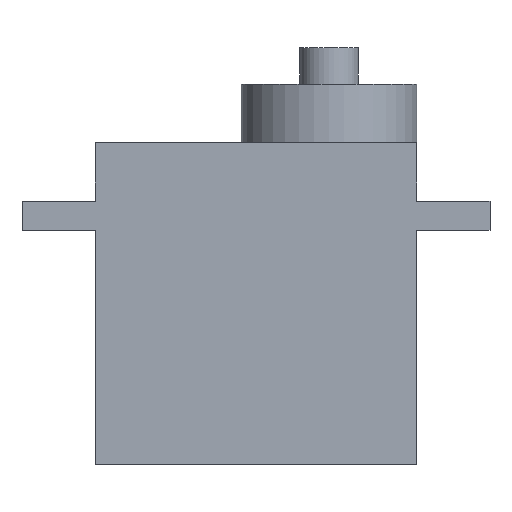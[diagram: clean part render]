
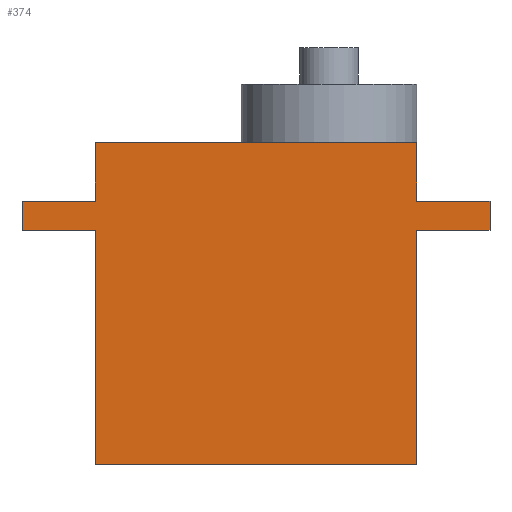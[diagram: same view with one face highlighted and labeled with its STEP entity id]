
A CAD part, front view. The second image highlights one B-rep face of the part: STEP entity #374.
In plain terms, the highlighted planar face has unit normal (0, -1, 0).
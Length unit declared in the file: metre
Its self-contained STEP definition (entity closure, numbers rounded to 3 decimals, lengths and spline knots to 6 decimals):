
#23=LINE('',#567,#62);
#25=LINE('',#572,#64);
#30=LINE('',#582,#69);
#34=LINE('',#590,#73);
#36=LINE('',#595,#75);
#39=LINE('',#601,#78);
#40=LINE('',#602,#79);
#41=LINE('',#604,#80);
#42=LINE('',#606,#81);
#43=LINE('',#607,#82);
#44=LINE('',#608,#83);
#45=LINE('',#610,#84);
#46=LINE('',#612,#85);
#62=VECTOR('',#461,1.);
#64=VECTOR('',#465,1.);
#69=VECTOR('',#472,1.);
#73=VECTOR('',#478,1.);
#75=VECTOR('',#482,1.);
#78=VECTOR('',#487,1.);
#79=VECTOR('',#488,1.);
#80=VECTOR('',#489,1.);
#81=VECTOR('',#490,1.);
#82=VECTOR('',#491,1.);
#83=VECTOR('',#492,1.);
#84=VECTOR('',#493,1.);
#85=VECTOR('',#494,1.);
#121=ORIENTED_EDGE('',*,*,#217,.T.);
#122=ORIENTED_EDGE('',*,*,#214,.F.);
#123=ORIENTED_EDGE('',*,*,#218,.F.);
#124=ORIENTED_EDGE('',*,*,#219,.F.);
#125=ORIENTED_EDGE('',*,*,#220,.T.);
#126=ORIENTED_EDGE('',*,*,#212,.F.);
#127=ORIENTED_EDGE('',*,*,#221,.F.);
#128=ORIENTED_EDGE('',*,*,#201,.F.);
#129=ORIENTED_EDGE('',*,*,#203,.T.);
#130=ORIENTED_EDGE('',*,*,#222,.F.);
#131=ORIENTED_EDGE('',*,*,#223,.F.);
#132=ORIENTED_EDGE('',*,*,#224,.T.);
#133=ORIENTED_EDGE('',*,*,#208,.T.);
#201=EDGE_CURVE('',#249,#247,#23,.T.);
#203=EDGE_CURVE('',#249,#250,#25,.T.);
#208=EDGE_CURVE('',#253,#255,#30,.T.);
#212=EDGE_CURVE('',#258,#257,#34,.T.);
#214=EDGE_CURVE('',#259,#261,#36,.T.);
#217=EDGE_CURVE('',#255,#261,#39,.T.);
#218=EDGE_CURVE('',#263,#259,#40,.T.);
#219=EDGE_CURVE('',#264,#263,#41,.T.);
#220=EDGE_CURVE('',#264,#257,#42,.T.);
#221=EDGE_CURVE('',#247,#258,#43,.T.);
#222=EDGE_CURVE('',#265,#250,#44,.T.);
#223=EDGE_CURVE('',#266,#265,#45,.T.);
#224=EDGE_CURVE('',#266,#253,#46,.T.);
#247=VERTEX_POINT('',#562);
#249=VERTEX_POINT('',#566);
#250=VERTEX_POINT('',#570);
#253=VERTEX_POINT('',#577);
#255=VERTEX_POINT('',#581);
#257=VERTEX_POINT('',#586);
#258=VERTEX_POINT('',#589);
#259=VERTEX_POINT('',#593);
#261=VERTEX_POINT('',#596);
#263=VERTEX_POINT('',#603);
#264=VERTEX_POINT('',#605);
#265=VERTEX_POINT('',#609);
#266=VERTEX_POINT('',#611);
#294=EDGE_LOOP('',(#121,#122,#123,#124,#125,#126,#127,#128,#129,#130,#131,
#132,#133));
#325=FACE_BOUND('',#294,.T.);
#356=PLANE('',#423);
#374=ADVANCED_FACE('',(#325),#356,.F.);
#423=AXIS2_PLACEMENT_3D('',#600,#485,#486);
#461=DIRECTION('',(1.,0.,0.));
#465=DIRECTION('',(0.,0.,-1.));
#472=DIRECTION('',(0.,0.,-1.));
#478=DIRECTION('',(0.,0.,-1.));
#482=DIRECTION('',(0.,0.,-1.));
#485=DIRECTION('',(0.,1.,0.));
#486=DIRECTION('',(0.,0.,1.));
#487=DIRECTION('',(1.,0.,0.));
#488=DIRECTION('',(-1.,0.,0.));
#489=DIRECTION('',(0.,0.,-1.));
#490=DIRECTION('',(-1.,0.,0.));
#491=DIRECTION('',(1.,0.,0.));
#492=DIRECTION('',(1.,0.,0.));
#493=DIRECTION('',(0.,0.,1.));
#494=DIRECTION('',(1.,0.,0.));
#562=CARTESIAN_POINT('',(-0.00184,-0.003676,0.022));
#566=CARTESIAN_POINT('',(-0.01784,-0.003676,0.022));
#567=CARTESIAN_POINT('',(-0.01784,-0.003676,0.022));
#570=CARTESIAN_POINT('',(-0.01784,-0.003676,0.018));
#572=CARTESIAN_POINT('',(-0.01784,-0.003676,0.022));
#577=CARTESIAN_POINT('',(-0.01784,-0.003676,0.016));
#581=CARTESIAN_POINT('',(-0.01784,-0.003676,0.));
#582=CARTESIAN_POINT('',(-0.01784,-0.003676,0.022));
#586=CARTESIAN_POINT('',(0.00416,-0.003676,0.018));
#589=CARTESIAN_POINT('',(0.00416,-0.003676,0.022));
#590=CARTESIAN_POINT('',(0.00416,-0.003676,0.022));
#593=CARTESIAN_POINT('',(0.00416,-0.003676,0.016));
#595=CARTESIAN_POINT('',(0.00416,-0.003676,0.022));
#596=CARTESIAN_POINT('',(0.00416,-0.003676,0.));
#600=CARTESIAN_POINT('',(-0.01784,-0.003676,0.022));
#601=CARTESIAN_POINT('',(-0.01784,-0.003676,0.));
#602=CARTESIAN_POINT('',(0.00916,-0.003676,0.016));
#603=CARTESIAN_POINT('',(0.00916,-0.003676,0.016));
#604=CARTESIAN_POINT('',(0.00916,-0.003676,0.018));
#605=CARTESIAN_POINT('',(0.00916,-0.003676,0.018));
#606=CARTESIAN_POINT('',(0.00916,-0.003676,0.018));
#607=CARTESIAN_POINT('',(-0.01784,-0.003676,0.022));
#608=CARTESIAN_POINT('',(-0.02284,-0.003676,0.018));
#609=CARTESIAN_POINT('',(-0.02284,-0.003676,0.018));
#610=CARTESIAN_POINT('',(-0.02284,-0.003676,0.018));
#611=CARTESIAN_POINT('',(-0.02284,-0.003676,0.016));
#612=CARTESIAN_POINT('',(-0.02284,-0.003676,0.016));
